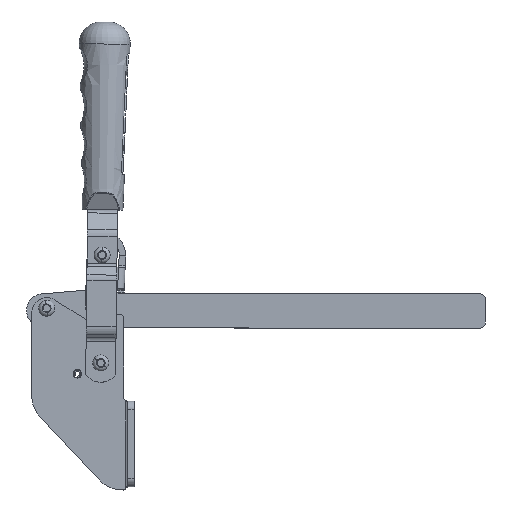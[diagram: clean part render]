
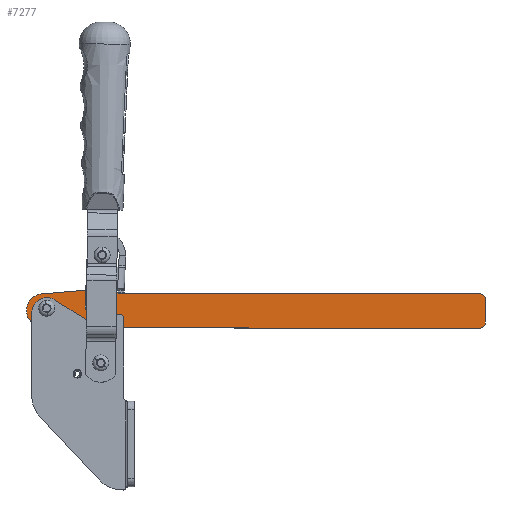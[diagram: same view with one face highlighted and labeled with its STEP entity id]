
A CAD part, top view. The second image highlights one B-rep face of the part: STEP entity #7277.
In plain terms, the highlighted planar face has unit normal (0, 0, 1) as drawn and (0, 0, -1) by its records, which use the part's own axes.
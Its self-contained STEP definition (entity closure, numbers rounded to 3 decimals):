
#444 = DIRECTION ( 'NONE',  ( 1., 0., 0. ) ) ;
#449 = CIRCLE ( 'NONE', #22165, 3. ) ;
#594 = DIRECTION ( 'NONE',  ( 0., 0., 1. ) ) ;
#741 = VECTOR ( 'NONE', #19515, 1000. ) ;
#808 = DIRECTION ( 'NONE',  ( -1., 0., 0. ) ) ;
#1769 = EDGE_CURVE ( 'NONE', #2510, #21475, #23368, .T. ) ;
#1784 = VERTEX_POINT ( 'NONE', #23506 ) ;
#2051 = EDGE_LOOP ( 'NONE', ( #9587, #16303, #26175, #3029, #26194, #4824, #5858, #7835, #17304, #11543, #16511, #15480 ) ) ;
#2355 = AXIS2_PLACEMENT_3D ( 'NONE', #14242, #5711, #24094 ) ;
#2510 = VERTEX_POINT ( 'NONE', #15152 ) ;
#2761 = VECTOR ( 'NONE', #808, 1000. ) ;
#2829 = LINE ( 'NONE', #7235, #9222 ) ;
#3007 = LINE ( 'NONE', #7153, #741 ) ;
#3029 = ORIENTED_EDGE ( 'NONE', *, *, #10222, .F. ) ;
#3033 = EDGE_CURVE ( 'NONE', #17058, #21937, #23966, .T. ) ;
#3082 = CARTESIAN_POINT ( 'NONE',  ( 4341.933, 1897.62, -6. ) ) ;
#3175 = CARTESIAN_POINT ( 'NONE',  ( 4547.006, 1881.799, -6. ) ) ;
#3637 = AXIS2_PLACEMENT_3D ( 'NONE', #7531, #7140, #5257 ) ;
#3819 = CARTESIAN_POINT ( 'NONE',  ( 4376.065, 1899.191, -6. ) ) ;
#3931 = AXIS2_PLACEMENT_3D ( 'NONE', #19899, #9923, #14191 ) ;
#4399 = AXIS2_PLACEMENT_3D ( 'NONE', #25976, #7733, #5723 ) ;
#4653 = DIRECTION ( 'NONE',  ( 0., 0., 1. ) ) ;
#4730 = DIRECTION ( 'NONE',  ( 1., 0., 0. ) ) ;
#4785 = DIRECTION ( 'NONE',  ( 1., 0., 0. ) ) ;
#4824 = ORIENTED_EDGE ( 'NONE', *, *, #3033, .F. ) ;
#4870 = EDGE_CURVE ( 'NONE', #13735, #24458, #23068, .T. ) ;
#5000 = CARTESIAN_POINT ( 'NONE',  ( 4550.006, 1894.999, -6. ) ) ;
#5257 = DIRECTION ( 'NONE',  ( 1., 0., 0. ) ) ;
#5711 = DIRECTION ( 'NONE',  ( 0., 0., 1. ) ) ;
#5723 = DIRECTION ( 'NONE',  ( 1., 0., 0. ) ) ;
#5858 = ORIENTED_EDGE ( 'NONE', *, *, #24341, .F. ) ;
#6041 = DIRECTION ( 'NONE',  ( 1., 0., 0. ) ) ;
#6120 = FACE_BOUND ( 'NONE', #14775, .T. ) ;
#7140 = DIRECTION ( 'NONE',  ( 0., 0., 1. ) ) ;
#7153 = CARTESIAN_POINT ( 'NONE',  ( 4373.41, 1900.37, -6. ) ) ;
#7235 = CARTESIAN_POINT ( 'NONE',  ( 4341.933, 1882.179, -6. ) ) ;
#7245 = CIRCLE ( 'NONE', #12755, 4. ) ;
#7277 = ADVANCED_FACE ( 'NONE', ( #6120, #20086, #9846 ), #7982, .F. ) ;
#7335 = CIRCLE ( 'NONE', #22211, 3. ) ;
#7531 = CARTESIAN_POINT ( 'NONE',  ( 4369.357, 1888.899, -6. ) ) ;
#7722 = AXIS2_PLACEMENT_3D ( 'NONE', #10916, #4653, #22646 ) ;
#7733 = DIRECTION ( 'NONE',  ( 0., 0., 1. ) ) ;
#7799 = DIRECTION ( 'NONE',  ( 1., 0., 0. ) ) ;
#7835 = ORIENTED_EDGE ( 'NONE', *, *, #4870, .F. ) ;
#7852 = VERTEX_POINT ( 'NONE', #21506 ) ;
#7978 = VERTEX_POINT ( 'NONE', #14853 ) ;
#7982 = PLANE ( 'NONE',  #2355 ) ;
#8066 = DIRECTION ( 'NONE',  ( 0., 0., -1. ) ) ;
#8308 = EDGE_CURVE ( 'NONE', #13009, #26143, #2829, .T. ) ;
#8714 = ORIENTED_EDGE ( 'NONE', *, *, #17296, .T. ) ;
#9087 = DIRECTION ( 'NONE',  ( 1., 0., 0. ) ) ;
#9222 = VECTOR ( 'NONE', #25068, 1000. ) ;
#9339 = CARTESIAN_POINT ( 'NONE',  ( 4340.357, 1888.899, -6. ) ) ;
#9587 = ORIENTED_EDGE ( 'NONE', *, *, #25962, .F. ) ;
#9593 = CIRCLE ( 'NONE', #3637, 4. ) ;
#9846 = FACE_OUTER_BOUND ( 'NONE', #2051, .T. ) ;
#9923 = DIRECTION ( 'NONE',  ( 0., 0., 1. ) ) ;
#10222 = EDGE_CURVE ( 'NONE', #24986, #13009, #14221, .T. ) ;
#10223 = AXIS2_PLACEMENT_3D ( 'NONE', #16581, #8066, #444 ) ;
#10704 = CARTESIAN_POINT ( 'NONE',  ( 4547.006, 1894.999, -6. ) ) ;
#10916 = CARTESIAN_POINT ( 'NONE',  ( 4547.006, 1884.799, -6. ) ) ;
#11143 = EDGE_CURVE ( 'NONE', #1784, #7852, #7245, .T. ) ;
#11251 = CARTESIAN_POINT ( 'NONE',  ( 4550.006, 1894.999, -6. ) ) ;
#11543 = ORIENTED_EDGE ( 'NONE', *, *, #1769, .F. ) ;
#11785 = CARTESIAN_POINT ( 'NONE',  ( 4378.458, 1881.799, -6. ) ) ;
#12435 = CIRCLE ( 'NONE', #3931, 4. ) ;
#12755 = AXIS2_PLACEMENT_3D ( 'NONE', #16166, #19877, #26017 ) ;
#12957 = CARTESIAN_POINT ( 'NONE',  ( 4378.458, 1881.799, -6. ) ) ;
#12973 = DIRECTION ( 'NONE',  ( 0., 1., 0. ) ) ;
#13009 = VERTEX_POINT ( 'NONE', #15185 ) ;
#13056 = EDGE_CURVE ( 'NONE', #26143, #13146, #22578, .T. ) ;
#13146 = VERTEX_POINT ( 'NONE', #24857 ) ;
#13585 = EDGE_CURVE ( 'NONE', #21475, #13735, #449, .T. ) ;
#13735 = VERTEX_POINT ( 'NONE', #26002 ) ;
#14172 = ORIENTED_EDGE ( 'NONE', *, *, #18396, .T. ) ;
#14191 = DIRECTION ( 'NONE',  ( 1., 0., 0. ) ) ;
#14192 = EDGE_LOOP ( 'NONE', ( #14172, #20131 ) ) ;
#14221 = CIRCLE ( 'NONE', #16346, 7.75 ) ;
#14242 = CARTESIAN_POINT ( 'NONE',  ( 4378.458, 1878.799, -6. ) ) ;
#14686 = CARTESIAN_POINT ( 'NONE',  ( 4378.458, 1878.799, -6. ) ) ;
#14775 = EDGE_LOOP ( 'NONE', ( #8714, #24158 ) ) ;
#14853 = CARTESIAN_POINT ( 'NONE',  ( 4348.357, 1888.899, -6. ) ) ;
#14936 = EDGE_CURVE ( 'NONE', #19273, #7978, #12435, .T. ) ;
#15130 = CARTESIAN_POINT ( 'NONE',  ( 4344.357, 1888.899, -6. ) ) ;
#15152 = CARTESIAN_POINT ( 'NONE',  ( 4550.006, 1884.799, -6. ) ) ;
#15185 = CARTESIAN_POINT ( 'NONE',  ( 4341.933, 1882.179, -6. ) ) ;
#15480 = ORIENTED_EDGE ( 'NONE', *, *, #15907, .F. ) ;
#15907 = EDGE_CURVE ( 'NONE', #19921, #23492, #22313, .T. ) ;
#16166 = CARTESIAN_POINT ( 'NONE',  ( 4369.357, 1888.899, -6. ) ) ;
#16246 = CIRCLE ( 'NONE', #7722, 3. ) ;
#16288 = DIRECTION ( 'NONE',  ( 0., 0., 1. ) ) ;
#16303 = ORIENTED_EDGE ( 'NONE', *, *, #13056, .F. ) ;
#16305 = VECTOR ( 'NONE', #7799, 1000. ) ;
#16346 = AXIS2_PLACEMENT_3D ( 'NONE', #18408, #16288, #6041 ) ;
#16511 = ORIENTED_EDGE ( 'NONE', *, *, #25208, .F. ) ;
#16581 = CARTESIAN_POINT ( 'NONE',  ( 4378.458, 1900.999, -6. ) ) ;
#17058 = VERTEX_POINT ( 'NONE', #3819 ) ;
#17229 = DIRECTION ( 'NONE',  ( 0., 0., 1. ) ) ;
#17296 = EDGE_CURVE ( 'NONE', #7852, #1784, #9593, .T. ) ;
#17304 = ORIENTED_EDGE ( 'NONE', *, *, #13585, .F. ) ;
#17725 = CARTESIAN_POINT ( 'NONE',  ( 4373.41, 1900.37, -6. ) ) ;
#18396 = EDGE_CURVE ( 'NONE', #7978, #19273, #21942, .T. ) ;
#18408 = CARTESIAN_POINT ( 'NONE',  ( 4342.607, 1889.899, -6. ) ) ;
#18817 = DIRECTION ( 'NONE',  ( 1., 0., 0. ) ) ;
#19202 = DIRECTION ( 'NONE',  ( 0., 0., -1. ) ) ;
#19227 = CARTESIAN_POINT ( 'NONE',  ( 4378.458, 1897.999, -6. ) ) ;
#19273 = VERTEX_POINT ( 'NONE', #9339 ) ;
#19515 = DIRECTION ( 'NONE',  ( -0.996, -0.087, 0. ) ) ;
#19877 = DIRECTION ( 'NONE',  ( 0., 0., 1. ) ) ;
#19899 = CARTESIAN_POINT ( 'NONE',  ( 4344.357, 1888.899, -6. ) ) ;
#19921 = VERTEX_POINT ( 'NONE', #12957 ) ;
#20086 = FACE_BOUND ( 'NONE', #14192, .T. ) ;
#20131 = ORIENTED_EDGE ( 'NONE', *, *, #14936, .T. ) ;
#21065 = CARTESIAN_POINT ( 'NONE',  ( 4500.006, 1897.999, -6. ) ) ;
#21427 = EDGE_CURVE ( 'NONE', #21937, #24986, #3007, .T. ) ;
#21475 = VERTEX_POINT ( 'NONE', #5000 ) ;
#21506 = CARTESIAN_POINT ( 'NONE',  ( 4373.357, 1888.899, -6. ) ) ;
#21710 = VECTOR ( 'NONE', #12973, 1000. ) ;
#21723 = CARTESIAN_POINT ( 'NONE',  ( 4373.41, 1879.429, -6. ) ) ;
#21937 = VERTEX_POINT ( 'NONE', #17725 ) ;
#21942 = CIRCLE ( 'NONE', #25362, 4. ) ;
#22165 = AXIS2_PLACEMENT_3D ( 'NONE', #10704, #17229, #18817 ) ;
#22211 = AXIS2_PLACEMENT_3D ( 'NONE', #14686, #19202, #9087 ) ;
#22313 = LINE ( 'NONE', #11785, #16305 ) ;
#22578 = CIRCLE ( 'NONE', #23414, 3. ) ;
#22646 = DIRECTION ( 'NONE',  ( 1., 0., 0. ) ) ;
#23041 = CARTESIAN_POINT ( 'NONE',  ( 4373.672, 1882.417, -6. ) ) ;
#23068 = LINE ( 'NONE', #21065, #2761 ) ;
#23368 = LINE ( 'NONE', #11251, #21710 ) ;
#23414 = AXIS2_PLACEMENT_3D ( 'NONE', #23041, #25033, #4785 ) ;
#23425 = CIRCLE ( 'NONE', #10223, 3. ) ;
#23492 = VERTEX_POINT ( 'NONE', #3175 ) ;
#23506 = CARTESIAN_POINT ( 'NONE',  ( 4365.357, 1888.899, -6. ) ) ;
#23966 = CIRCLE ( 'NONE', #4399, 3. ) ;
#24094 = DIRECTION ( 'NONE',  ( 1., 0., 0. ) ) ;
#24158 = ORIENTED_EDGE ( 'NONE', *, *, #11143, .T. ) ;
#24341 = EDGE_CURVE ( 'NONE', #24458, #17058, #23425, .T. ) ;
#24458 = VERTEX_POINT ( 'NONE', #19227 ) ;
#24857 = CARTESIAN_POINT ( 'NONE',  ( 4376.065, 1880.608, -6. ) ) ;
#24986 = VERTEX_POINT ( 'NONE', #3082 ) ;
#25033 = DIRECTION ( 'NONE',  ( 0., 0., 1. ) ) ;
#25068 = DIRECTION ( 'NONE',  ( 0.996, -0.087, 0. ) ) ;
#25208 = EDGE_CURVE ( 'NONE', #23492, #2510, #16246, .T. ) ;
#25362 = AXIS2_PLACEMENT_3D ( 'NONE', #15130, #594, #4730 ) ;
#25962 = EDGE_CURVE ( 'NONE', #13146, #19921, #7335, .T. ) ;
#25976 = CARTESIAN_POINT ( 'NONE',  ( 4373.672, 1897.382, -6. ) ) ;
#26002 = CARTESIAN_POINT ( 'NONE',  ( 4547.006, 1897.999, -6. ) ) ;
#26017 = DIRECTION ( 'NONE',  ( 1., 0., 0. ) ) ;
#26143 = VERTEX_POINT ( 'NONE', #21723 ) ;
#26175 = ORIENTED_EDGE ( 'NONE', *, *, #8308, .F. ) ;
#26194 = ORIENTED_EDGE ( 'NONE', *, *, #21427, .F. ) ;
